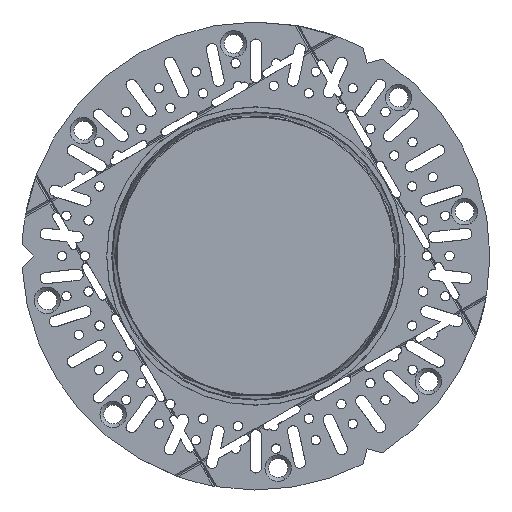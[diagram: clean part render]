
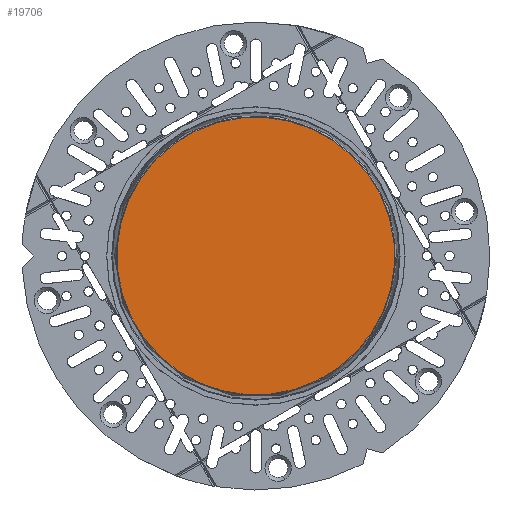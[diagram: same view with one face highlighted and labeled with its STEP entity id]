
A CAD part, front view. The second image highlights one B-rep face of the part: STEP entity #19706.
In plain terms, the highlighted planar face has unit normal (0, -1, 0).
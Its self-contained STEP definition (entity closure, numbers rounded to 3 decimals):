
#807 = CARTESIAN_POINT ( 'NONE',  ( 0., 0., 36.793 ) ) ;
#3155 = EDGE_LOOP ( 'NONE', ( #36796, #11274 ) ) ;
#5818 = DIRECTION ( 'NONE',  ( 0., 0., 1. ) ) ;
#6267 = CIRCLE ( 'NONE', #34392, 36.793 ) ;
#7031 = AXIS2_PLACEMENT_3D ( 'NONE', #7423, #33368, #15195 ) ;
#7423 = CARTESIAN_POINT ( 'NONE',  ( 0., 0., 0. ) ) ;
#9987 = CIRCLE ( 'NONE', #39722, 36.793 ) ;
#11274 = ORIENTED_EDGE ( 'NONE', *, *, #42913, .T. ) ;
#14695 = VERTEX_POINT ( 'NONE', #19306 ) ;
#15195 = DIRECTION ( 'NONE',  ( 0., 0., 1. ) ) ;
#19306 = CARTESIAN_POINT ( 'NONE',  ( 0., 0., -36.793 ) ) ;
#19706 = ADVANCED_FACE ( 'NONE', ( #22996 ), #41207, .F. ) ;
#22996 = FACE_OUTER_BOUND ( 'NONE', #3155, .T. ) ;
#24670 = DIRECTION ( 'NONE',  ( 0., -1., 0. ) ) ;
#25073 = DIRECTION ( 'NONE',  ( 0., -1., 0. ) ) ;
#33368 = DIRECTION ( 'NONE',  ( 0., 1., 0. ) ) ;
#34392 = AXIS2_PLACEMENT_3D ( 'NONE', #47949, #24670, #5818 ) ;
#36796 = ORIENTED_EDGE ( 'NONE', *, *, #39230, .T. ) ;
#39230 = EDGE_CURVE ( 'NONE', #42730, #14695, #9987, .T. ) ;
#39722 = AXIS2_PLACEMENT_3D ( 'NONE', #44056, #25073, #40501 ) ;
#40501 = DIRECTION ( 'NONE',  ( 0., 0., 1. ) ) ;
#41207 = PLANE ( 'NONE',  #7031 ) ;
#42730 = VERTEX_POINT ( 'NONE', #807 ) ;
#42913 = EDGE_CURVE ( 'NONE', #14695, #42730, #6267, .T. ) ;
#44056 = CARTESIAN_POINT ( 'NONE',  ( 0., 0., 0. ) ) ;
#47949 = CARTESIAN_POINT ( 'NONE',  ( 0., 0., 0. ) ) ;
